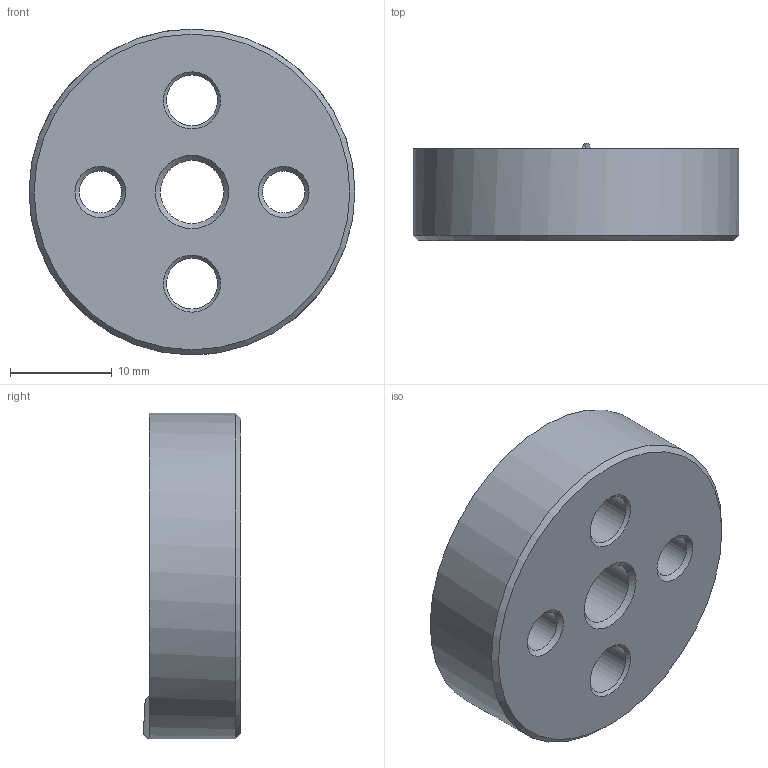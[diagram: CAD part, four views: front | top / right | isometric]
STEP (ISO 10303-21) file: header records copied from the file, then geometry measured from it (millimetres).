
FILE_DESCRIPTION( ( 'STEP AP203' ), '1' );
FILE_NAME( 'C:/Temp/Ganter_Step_05_03_2020/data/3_2/gn187_4/gn187_4_st/Serrated locking plate GN 187.4-32-48-D-ST.stp', '2020-03-13T05:25:47', ( 'License CC BY-ND 4.0' ), ( 'CADENAS' ), ' ', 'PARTsolutions', ' ' );
FILE_SCHEMA( ( 'CONFIG_CONTROL_DESIGN' ) );
Length unit declared in the file: millimetre
Products named in the file (1): _Serrated locking plate GN 187.4-32-48-D-ST
Bounding box: 32 x 9.57 x 32 mm (x, y, z)
Volume: 6006.5 mm3; surface area: 2954.7 mm2
Topology: 1 solids, 1 shells, 31 faces, 77 edges, 48 vertices
Faces by surface type: cone 15, cylinder 9, plane 7
Full cylindrical faces by diameter (mm): 4.134 x2, 5 x2, 6.2 x1, 23.5 x1, 32 x1
Entity records: 960 total; most frequent: CARTESIAN_POINT 241, DIRECTION 146, ORIENTED_EDGE 112, AXIS2_PLACEMENT_3D 70, EDGE_LOOP 59, EDGE_CURVE 56, VERTEX_POINT 45, FACE_OUTER_BOUND 38
